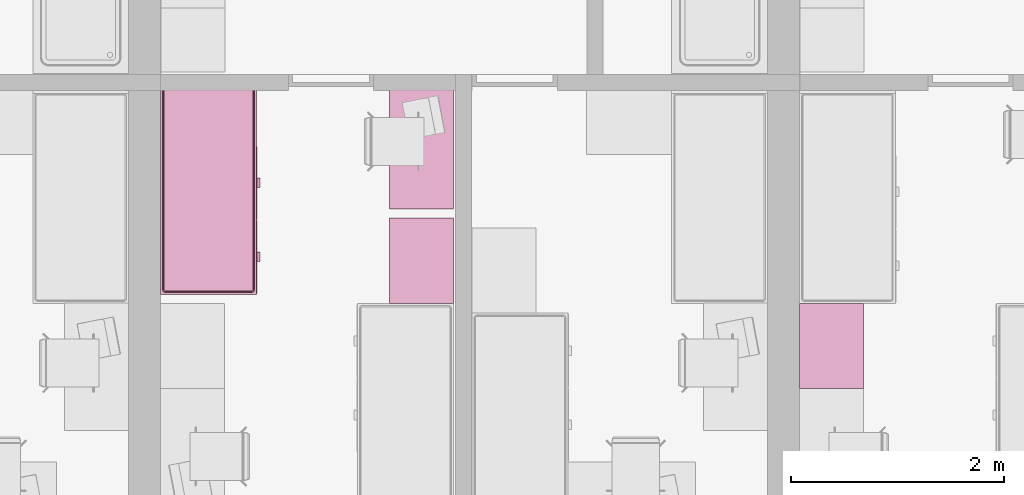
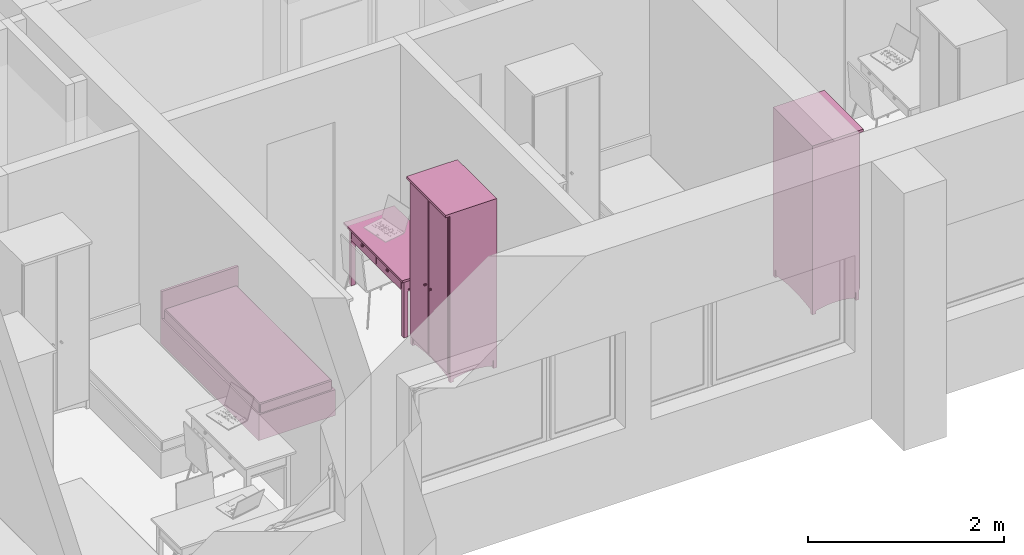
# One storey, part 86 of 165: 4 furnishings.
"""IFC2X3 building model written with IfcOpenShell, lengths in millimetres."""

from ifc_helpers import new_model, entity, si_unit, converted_unit, money_unit, direction, frame, origin_with_axes, place, context, subcontext, project, spatial, faceted_brep, source, transform, mapped, material, material_list, type_object, element, save


model = new_model("IFC2X3")

# Units and contexts
model_context = context("Model", 3, precision=1e-05, world=origin_with_axes(), true_north=direction((0.0, 1.0)))
body_context = subcontext(model_context, "Body", "Model", "MODEL_VIEW")
ifc_project = project(units=[si_unit("LENGTHUNIT", "METRE", prefix="MILLI"), si_unit("AREAUNIT", "SQUARE_METRE"), si_unit("VOLUMEUNIT", "CUBIC_METRE"), converted_unit("PLANEANGLEUNIT", "DEGREE", entity("IfcPlaneAngleMeasure", 0.0174532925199), si_unit("PLANEANGLEUNIT", "RADIAN"), dimensions=[0, 0, 0, 0, 0, 0, 0]), si_unit("SOLIDANGLEUNIT", "STERADIAN"), money_unit("USD"), converted_unit("TIMEUNIT", "Year", entity("IfcTimeMeasure", 31556926.0), si_unit("TIMEUNIT", "SECOND"), dimensions=[0, 0, 0, 0, 0, 0, 0]), si_unit("MASSUNIT", "GRAM"), si_unit("THERMODYNAMICTEMPERATUREUNIT", "DEGREE_CELSIUS"), si_unit("LUMINOUSINTENSITYUNIT", "LUMEN")], contexts=[model_context])

# Site, building, storey
site_placement = place(None, origin_with_axes())
site = spatial("IfcSite", under=ifc_project, at=site_placement, Name="Site", CompositionType="ELEMENT")
building_placement = place(site_placement, origin_with_axes())
building = spatial("IfcBuilding", under=site, at=building_placement, Name="Building", CompositionType="ELEMENT")
storey_placement = place(building_placement, frame((0.0, 0.0, 6300.0), z_axis=(0.0, 0.0, 1.0), x_axis=(1.0, 0.0, 0.0)))
storey = spatial("IfcBuildingStorey", under=building, at=storey_placement, Name="4KORRUS", CompositionType="ELEMENT", Elevation=6300.0)

# Furnishings
ifc_material = material(Name="Background")
ifc_material_list = material_list([ifc_material])
furnishing_element_type_1 = type_object("IfcFurnishingElementType", Name="Bed 19")
shared_shape_1 = source(origin_with_axes(), body_context, "Body", "Brep", [
    faceted_brep([(900.0, 1970.0, 0.0), (0.0, 1970.0, 0.0), (0.0, 2000.0, 0.0), (900.0, 2000.0, 0.0), (900.0, 1970.0, 660.0), (0.0, 1970.0, 660.0), (0.0, 2000.0, 660.0), (900.0, 2000.0, 660.0)], [[[0, 1, 2, 3]], [[1, 0, 4, 5]], [[2, 1, 5, 6]], [[3, 2, 6, 7]], [[0, 3, 7, 4]], [[5, 4, 7, 6]]]),
    faceted_brep([(900.0, 0.0, 0.0), (0.0, 0.0, 0.0), (0.0, 1970.0, 0.0), (900.0, 1970.0, 0.0), (900.0, 0.0, 320.0), (0.0, 0.0, 320.0), (0.0, 1970.0, 320.0), (900.0, 1970.0, 320.0)], [[[0, 1, 2, 3]], [[1, 0, 4, 5]], [[2, 1, 5, 6]], [[3, 2, 6, 7]], [[0, 3, 7, 4]], [[5, 4, 7, 6]]]),
    faceted_brep([(905.0, 10.0, 30.0), (900.0, 10.0, 30.0), (900.0, 695.0, 30.0), (905.0, 695.0, 30.0), (905.0, 10.0, 290.0), (900.0, 10.0, 290.0), (900.0, 695.0, 290.0), (905.0, 695.0, 290.0)], [[[0, 1, 2, 3]], [[1, 0, 4, 5]], [[2, 1, 5, 6]], [[3, 2, 6, 7]], [[0, 3, 7, 4]], [[5, 4, 7, 6]]]),
    faceted_brep([(935.0, 307.5, 150.0), (905.0, 307.5, 150.0), (905.0, 397.5, 150.0), (935.0, 397.5, 150.0), (935.0, 307.5, 170.0), (905.0, 307.5, 170.0), (905.0, 397.5, 170.0), (935.0, 397.5, 170.0)], [[[0, 1, 2, 3]], [[1, 0, 4, 5]], [[2, 1, 5, 6]], [[3, 2, 6, 7]], [[0, 3, 7, 4]], [[5, 4, 7, 6]]]),
    faceted_brep([(905.0, 705.0, 30.0), (900.0, 705.0, 30.0), (900.0, 1390.0, 30.0), (905.0, 1390.0, 30.0), (905.0, 705.0, 290.0), (900.0, 705.0, 290.0), (900.0, 1390.0, 290.0), (905.0, 1390.0, 290.0)], [[[0, 1, 2, 3]], [[1, 0, 4, 5]], [[2, 1, 5, 6]], [[3, 2, 6, 7]], [[0, 3, 7, 4]], [[5, 4, 7, 6]]]),
    faceted_brep([(935.0, 1002.5, 150.0), (905.0, 1002.5, 150.0), (905.0, 1092.5, 150.0), (935.0, 1092.5, 150.0), (935.0, 1002.5, 170.0), (905.0, 1002.5, 170.0), (905.0, 1092.5, 170.0), (935.0, 1092.5, 170.0)], [[[0, 1, 2, 3]], [[1, 0, 4, 5]], [[2, 1, 5, 6]], [[3, 2, 6, 7]], [[0, 3, 7, 4]], [[5, 4, 7, 6]]]),
    faceted_brep([(20.0, 40.0, 350.0), (20.0, 1950.0, 350.0), (21.522, 1957.654, 350.0), (25.858, 1964.142, 350.0), (32.346, 1968.478, 350.0), (40.0, 1970.0, 350.0), (860.0, 1970.0, 350.0), (867.654, 1968.478, 350.0), (874.142, 1964.142, 350.0), (878.478, 1957.654, 350.0), (880.0, 1950.0, 350.0), (880.0, 40.0, 350.0), (878.478, 32.346, 350.0), (874.142, 25.858, 350.0), (867.654, 21.522, 350.0), (860.0, 20.0, 350.0), (40.0, 20.0, 350.0), (32.346, 21.522, 350.0), (25.858, 25.858, 350.0), (21.522, 32.346, 350.0), (20.0, 40.0, 420.0), (20.0, 1950.0, 420.0), (21.522, 1957.654, 420.0), (25.858, 1964.142, 420.0), (32.346, 1968.478, 420.0), (40.0, 1970.0, 420.0), (860.0, 1970.0, 420.0), (867.654, 1968.478, 420.0), (874.142, 1964.142, 420.0), (878.478, 1957.654, 420.0), (880.0, 1950.0, 420.0), (880.0, 40.0, 420.0), (878.478, 32.346, 420.0), (874.142, 25.858, 420.0), (867.654, 21.522, 420.0), (860.0, 20.0, 420.0), (40.0, 20.0, 420.0), (32.346, 21.522, 420.0), (25.858, 25.858, 420.0), (21.522, 32.346, 420.0), (21.522, 40.15, 427.654), (21.522, 1949.85, 427.654), (22.956, 1957.06, 427.654), (26.955, 1963.045, 427.654), (32.94, 1967.044, 427.654), (40.15, 1968.478, 427.654), (859.85, 1968.478, 427.654), (867.06, 1967.044, 427.654), (873.045, 1963.045, 427.654), (877.044, 1957.06, 427.654), (878.478, 1949.85, 427.654), (878.478, 40.15, 427.654), (877.044, 32.94, 427.654), (873.045, 26.955, 427.654), (867.06, 22.956, 427.654), (859.85, 21.522, 427.654), (40.15, 21.522, 427.654), (32.94, 22.956, 427.654), (26.955, 26.955, 427.654), (22.956, 32.94, 427.654), (32.346, 41.216, 438.478), (32.346, 1948.784, 438.478), (33.152, 1952.836, 438.478), (34.759, 1955.241, 438.478), (37.164, 1956.848, 438.478), (41.216, 1957.654, 438.478), (858.784, 1957.654, 438.478), (862.836, 1956.848, 438.478), (865.241, 1955.241, 438.478), (866.848, 1952.836, 438.478), (867.654, 1948.784, 438.478), (867.654, 41.216, 438.478), (866.848, 37.164, 438.478), (865.241, 34.759, 438.478), (862.836, 33.152, 438.478), (858.784, 32.346, 438.478), (41.216, 32.346, 438.478), (37.164, 33.152, 438.478), (34.759, 34.759, 438.478), (33.152, 37.164, 438.478), (40.0, 41.97, 440.0), (40.0, 1948.03, 440.0), (40.327, 1949.673, 440.0), (40.0, 1950.0, 439.924), (41.97, 1950.0, 440.0), (858.03, 1950.0, 440.0), (859.673, 1949.673, 440.0), (860.0, 1950.0, 439.924), (860.0, 1948.03, 440.0), (860.0, 41.97, 440.0), (859.673, 40.327, 440.0), (860.0, 40.0, 439.924), (858.03, 40.0, 440.0), (41.97, 40.0, 440.0), (40.327, 40.327, 440.0), (40.0, 40.0, 439.924)], [[[0, 1, 2, 3, 4, 5, 6, 7, 8, 9, 10, 11, 12, 13, 14, 15, 16, 17, 18, 19]], [[1, 0, 20, 21]], [[2, 1, 21, 22]], [[3, 2, 22, 23]], [[4, 3, 23, 24]], [[5, 4, 24, 25]], [[6, 5, 25, 26]], [[7, 6, 26, 27]], [[8, 7, 27, 28]], [[9, 8, 28, 29]], [[10, 9, 29, 30]], [[11, 10, 30, 31]], [[12, 11, 31, 32]], [[13, 12, 32, 33]], [[14, 13, 33, 34]], [[15, 14, 34, 35]], [[16, 15, 35, 36]], [[17, 16, 36, 37]], [[18, 17, 37, 38]], [[19, 18, 38, 39]], [[0, 19, 39, 20]], [[21, 20, 40, 41]], [[22, 21, 41, 42]], [[23, 22, 42, 43]], [[24, 23, 43, 44]], [[25, 24, 44, 45]], [[26, 25, 45, 46]], [[27, 26, 46, 47]], [[28, 27, 47, 48]], [[29, 28, 48, 49]], [[30, 29, 49, 50]], [[31, 30, 50, 51]], [[32, 31, 51, 52]], [[33, 32, 52, 53]], [[34, 33, 53, 54]], [[35, 34, 54, 55]], [[36, 35, 55, 56]], [[37, 36, 56, 57]], [[38, 37, 57, 58]], [[39, 38, 58, 59]], [[20, 39, 59, 40]], [[41, 40, 60, 61]], [[42, 41, 61, 62]], [[43, 42, 62, 63]], [[44, 43, 63, 64]], [[45, 44, 64, 65]], [[46, 45, 65, 66]], [[47, 46, 66, 67]], [[48, 47, 67, 68]], [[49, 48, 68, 69]], [[50, 49, 69, 70]], [[51, 50, 70, 71]], [[52, 51, 71, 72]], [[53, 52, 72, 73]], [[54, 53, 73, 74]], [[55, 54, 74, 75]], [[56, 55, 75, 76]], [[57, 56, 76, 77]], [[58, 57, 77, 78]], [[59, 58, 78, 79]], [[40, 59, 79, 60]], [[61, 60, 80, 81]], [[62, 61, 81, 82, 83]], [[63, 62, 83]], [[64, 63, 83]], [[65, 64, 83, 82, 84]], [[66, 65, 84, 85]], [[67, 66, 85, 86, 87]], [[68, 67, 87]], [[69, 68, 87]], [[70, 69, 87, 86, 88]], [[71, 70, 88, 89]], [[72, 71, 89, 90, 91]], [[73, 72, 91]], [[74, 73, 91]], [[75, 74, 91, 90, 92]], [[76, 75, 92, 93]], [[77, 76, 93, 94, 95]], [[78, 77, 95]], [[79, 78, 95]], [[60, 79, 95, 94, 80]], [[81, 80, 94, 93, 92, 90, 89, 88, 86, 85, 84, 82]]]),
    faceted_brep([(20.0, 40.0, 350.0), (21.522, 32.346, 350.0), (25.858, 25.858, 350.0), (32.346, 21.522, 350.0), (40.0, 20.0, 350.0), (860.0, 20.0, 350.0), (867.654, 21.522, 350.0), (874.142, 25.858, 350.0), (878.478, 32.346, 350.0), (880.0, 40.0, 350.0), (880.0, 1950.0, 350.0), (878.478, 1957.654, 350.0), (874.142, 1964.142, 350.0), (867.654, 1968.478, 350.0), (860.0, 1970.0, 350.0), (40.0, 1970.0, 350.0), (32.346, 1968.478, 350.0), (25.858, 1964.142, 350.0), (21.522, 1957.654, 350.0), (20.0, 1950.0, 350.0), (20.0, 40.0, 320.0), (21.522, 32.346, 320.0), (25.858, 25.858, 320.0), (32.346, 21.522, 320.0), (40.0, 20.0, 320.0), (860.0, 20.0, 320.0), (867.654, 21.522, 320.0), (874.142, 25.858, 320.0), (878.478, 32.346, 320.0), (880.0, 40.0, 320.0), (880.0, 1950.0, 320.0), (878.478, 1957.654, 320.0), (874.142, 1964.142, 320.0), (867.654, 1968.478, 320.0), (860.0, 1970.0, 320.0), (40.0, 1970.0, 320.0), (32.346, 1968.478, 320.0), (25.858, 1964.142, 320.0), (21.522, 1957.654, 320.0), (20.0, 1950.0, 320.0)], [[[0, 1, 2, 3, 4, 5, 6, 7, 8, 9, 10, 11, 12, 13, 14, 15, 16, 17, 18, 19]], [[0, 20, 21, 1]], [[1, 21, 22, 2]], [[2, 22, 23, 3]], [[3, 23, 24, 4]], [[4, 24, 25, 5]], [[5, 25, 26, 6]], [[6, 26, 27, 7]], [[7, 27, 28, 8]], [[8, 28, 29, 9]], [[9, 29, 30, 10]], [[10, 30, 31, 11]], [[11, 31, 32, 12]], [[12, 32, 33, 13]], [[13, 33, 34, 14]], [[14, 34, 35, 15]], [[15, 35, 36, 16]], [[16, 36, 37, 17]], [[17, 37, 38, 18]], [[18, 38, 39, 19]], [[19, 39, 20, 0]], [[20, 39, 38, 37, 36, 35, 34, 33, 32, 31, 30, 29, 28, 27, 26, 25, 24, 23, 22, 21]]]),
])
furnishing_1_placement = place(storey_placement, frame((-29990.2967033, -17354.734447, 0.0), z_axis=(0.0, 0.0, 1.0), x_axis=(1.0, 0.0, 0.0)))
element("IfcFurnishingElement", 1, at=furnishing_1_placement, inside=storey, type_object=furnishing_element_type_1, material=ifc_material_list, Name="FU - 013", context=body_context, shape_type="MappedRepresentation", body=[
    mapped(shared_shape_1, transform((0.0, 0.0, 0.0))),
])
furnishing_element_type_2 = type_object("IfcFurnishingElementType", Name="Cupboard 19")
shared_shape_2 = source(origin_with_axes(), body_context, "Body", "Brep", [
    faceted_brep([(780.0, 600.0, 120.0), (780.0, 600.0, 2050.0), (780.0, 580.0, 2050.0), (780.0, 580.0, 120.0), (20.0, 600.0, 120.0), (20.0, 600.0, 2050.0), (20.0, 580.0, 2050.0), (20.0, 580.0, 120.0)], [[[0, 1, 2, 3]], [[4, 5, 1, 0]], [[1, 5, 6, 2]], [[3, 2, 6, 7]], [[0, 3, 7, 4]], [[7, 6, 5, 4]]]),
    faceted_brep([(0.0, 50.0, 100.0), (0.0, 600.0, 100.0), (20.0, 600.0, 100.0), (20.0, 50.0, 100.0), (0.0, 50.0, 2070.0), (0.0, 600.0, 2070.0), (20.0, 600.0, 2070.0), (20.0, 50.0, 2070.0)], [[[0, 1, 2, 3]], [[0, 4, 5, 1]], [[1, 5, 6, 2]], [[2, 6, 7, 3]], [[3, 7, 4, 0]], [[7, 6, 5, 4]]]),
    faceted_brep([(780.0, 50.0, 100.0), (780.0, 600.0, 100.0), (800.0, 600.0, 100.0), (800.0, 50.0, 100.0), (780.0, 50.0, 2070.0), (780.0, 600.0, 2070.0), (800.0, 600.0, 2070.0), (800.0, 50.0, 2070.0)], [[[0, 1, 2, 3]], [[0, 4, 5, 1]], [[1, 5, 6, 2]], [[2, 6, 7, 3]], [[3, 7, 4, 0]], [[7, 6, 5, 4]]]),
    faceted_brep([(20.0, 50.0, 100.0), (20.0, 600.0, 100.0), (780.0, 600.0, 100.0), (780.0, 50.0, 100.0), (20.0, 50.0, 120.0), (20.0, 600.0, 120.0), (780.0, 600.0, 120.0), (780.0, 50.0, 120.0)], [[[0, 1, 2, 3]], [[0, 4, 5, 1]], [[1, 5, 6, 2]], [[2, 6, 7, 3]], [[3, 7, 4, 0]], [[7, 6, 5, 4]]]),
    faceted_brep([(20.0, 50.0, 2050.0), (20.0, 600.0, 2050.0), (780.0, 600.0, 2050.0), (780.0, 50.0, 2050.0), (20.0, 50.0, 2070.0), (20.0, 600.0, 2070.0), (780.0, 600.0, 2070.0), (780.0, 50.0, 2070.0)], [[[0, 1, 2, 3]], [[0, 4, 5, 1]], [[1, 5, 6, 2]], [[2, 6, 7, 3]], [[3, 7, 4, 0]], [[7, 6, 5, 4]]]),
    faceted_brep([(0.0, 600.0, 2070.0), (0.0, 0.0, 2070.0), (0.0, 0.0, 2100.0), (0.0, 600.0, 2100.0), (800.0, 600.0, 2070.0), (800.0, 0.0, 2070.0), (800.0, 0.0, 2100.0), (800.0, 600.0, 2100.0)], [[[0, 1, 2, 3]], [[0, 4, 5, 1]], [[1, 5, 6, 2]], [[3, 2, 6, 7]], [[4, 0, 3, 7]], [[5, 4, 7, 6]]]),
    faceted_brep([(760.0, 590.0, 25.0), (760.0, 570.0, 25.0), (640.962, 570.0, 45.8), (640.962, 590.0, 45.8), (760.0, 590.0, 100.0), (760.0, 570.0, 100.0), (40.0, 570.0, 100.0), (40.0, 570.0, 25.0), (159.038, 570.0, 45.8), (279.23, 570.0, 58.32), (400.0, 570.0, 62.5), (520.77, 570.0, 58.32), (520.77, 590.0, 58.32), (400.0, 590.0, 62.5), (279.23, 590.0, 58.32), (159.038, 590.0, 45.8), (40.0, 590.0, 25.0), (40.0, 590.0, 100.0)], [[[0, 1, 2, 3]], [[4, 5, 1, 0]], [[1, 5, 6, 7, 8, 9, 10, 11, 2]], [[3, 2, 11, 12]], [[0, 3, 12, 13, 14, 15, 16, 17, 4]], [[17, 6, 5, 4]], [[16, 7, 6, 17]], [[15, 8, 7, 16]], [[14, 9, 8, 15]], [[13, 10, 9, 14]], [[12, 11, 10, 13]]]),
    faceted_brep([(760.0, 80.0, 25.0), (760.0, 60.0, 25.0), (640.962, 60.0, 45.8), (640.962, 80.0, 45.8), (760.0, 80.0, 100.0), (760.0, 60.0, 100.0), (40.0, 60.0, 100.0), (40.0, 60.0, 25.0), (159.038, 60.0, 45.8), (279.23, 60.0, 58.32), (400.0, 60.0, 62.5), (520.77, 60.0, 58.32), (520.77, 80.0, 58.32), (400.0, 80.0, 62.5), (279.23, 80.0, 58.32), (159.038, 80.0, 45.8), (40.0, 80.0, 25.0), (40.0, 80.0, 100.0)], [[[0, 1, 2, 3]], [[4, 5, 1, 0]], [[1, 5, 6, 7, 8, 9, 10, 11, 2]], [[3, 2, 11, 12]], [[0, 3, 12, 13, 14, 15, 16, 17, 4]], [[17, 6, 5, 4]], [[16, 7, 6, 17]], [[15, 8, 7, 16]], [[14, 9, 8, 15]], [[13, 10, 9, 14]], [[12, 11, 10, 13]]]),
    faceted_brep([(790.0, 90.0, 25.0), (770.0, 90.0, 25.0), (770.0, 141.266, 38.072), (790.0, 141.266, 38.072), (790.0, 90.0, 100.0), (770.0, 90.0, 100.0), (770.0, 560.0, 100.0), (770.0, 560.0, 25.0), (770.0, 508.734, 38.072), (770.0, 456.752, 47.92), (770.0, 404.257, 54.508), (770.0, 351.453, 57.808), (770.0, 298.547, 57.808), (770.0, 245.743, 54.508), (770.0, 193.248, 47.92), (790.0, 193.248, 47.92), (790.0, 245.743, 54.508), (790.0, 298.547, 57.808), (790.0, 351.453, 57.808), (790.0, 404.257, 54.508), (790.0, 456.752, 47.92), (790.0, 508.734, 38.072), (790.0, 560.0, 25.0), (790.0, 560.0, 100.0)], [[[0, 1, 2, 3]], [[4, 5, 1, 0]], [[1, 5, 6, 7, 8, 9, 10, 11, 12, 13, 14, 2]], [[3, 2, 14, 15]], [[0, 3, 15, 16, 17, 18, 19, 20, 21, 22, 23, 4]], [[23, 6, 5, 4]], [[22, 7, 6, 23]], [[21, 8, 7, 22]], [[20, 9, 8, 21]], [[19, 10, 9, 20]], [[18, 11, 10, 19]], [[17, 12, 11, 18]], [[16, 13, 12, 17]], [[15, 14, 13, 16]]]),
    faceted_brep([(30.0, 90.0, 25.0), (10.0, 90.0, 25.0), (10.0, 141.266, 38.072), (30.0, 141.266, 38.072), (30.0, 90.0, 100.0), (10.0, 90.0, 100.0), (10.0, 560.0, 100.0), (10.0, 560.0, 25.0), (10.0, 508.734, 38.072), (10.0, 456.752, 47.92), (10.0, 404.257, 54.508), (10.0, 351.453, 57.808), (10.0, 298.547, 57.808), (10.0, 245.743, 54.508), (10.0, 193.248, 47.92), (30.0, 193.248, 47.92), (30.0, 245.743, 54.508), (30.0, 298.547, 57.808), (30.0, 351.453, 57.808), (30.0, 404.257, 54.508), (30.0, 456.752, 47.92), (30.0, 508.734, 38.072), (30.0, 560.0, 25.0), (30.0, 560.0, 100.0)], [[[0, 1, 2, 3]], [[4, 5, 1, 0]], [[1, 5, 6, 7, 8, 9, 10, 11, 12, 13, 14, 2]], [[3, 2, 14, 15]], [[0, 3, 15, 16, 17, 18, 19, 20, 21, 22, 23, 4]], [[23, 6, 5, 4]], [[22, 7, 6, 23]], [[21, 8, 7, 22]], [[20, 9, 8, 21]], [[19, 10, 9, 20]], [[18, 11, 10, 19]], [[17, 12, 11, 18]], [[16, 13, 12, 17]], [[15, 14, 13, 16]]]),
    faceted_brep([(760.0, 560.0, 0.0), (760.0, 560.0, 100.0), (760.0, 600.0, 100.0), (760.0, 600.0, 0.0), (800.0, 560.0, 0.0), (800.0, 560.0, 100.0), (800.0, 600.0, 100.0), (800.0, 600.0, 0.0)], [[[0, 1, 2, 3]], [[4, 5, 1, 0]], [[1, 5, 6, 2]], [[3, 2, 6, 7]], [[0, 3, 7, 4]], [[7, 6, 5, 4]]]),
    faceted_brep([(0.0, 560.0, 0.0), (0.0, 560.0, 100.0), (0.0, 600.0, 100.0), (0.0, 600.0, 0.0), (40.0, 560.0, 0.0), (40.0, 560.0, 100.0), (40.0, 600.0, 100.0), (40.0, 600.0, 0.0)], [[[0, 1, 2, 3]], [[4, 5, 1, 0]], [[1, 5, 6, 2]], [[3, 2, 6, 7]], [[0, 3, 7, 4]], [[7, 6, 5, 4]]]),
    faceted_brep([(760.0, 50.0, 0.0), (760.0, 50.0, 100.0), (760.0, 90.0, 100.0), (760.0, 90.0, 0.0), (800.0, 50.0, 0.0), (800.0, 50.0, 100.0), (800.0, 90.0, 100.0), (800.0, 90.0, 0.0)], [[[0, 1, 2, 3]], [[4, 5, 1, 0]], [[1, 5, 6, 2]], [[3, 2, 6, 7]], [[0, 3, 7, 4]], [[7, 6, 5, 4]]]),
    faceted_brep([(0.0, 50.0, 0.0), (0.0, 50.0, 100.0), (0.0, 90.0, 100.0), (0.0, 90.0, 0.0), (40.0, 50.0, 0.0), (40.0, 50.0, 100.0), (40.0, 90.0, 100.0), (40.0, 90.0, 0.0)], [[[0, 1, 2, 3]], [[4, 5, 1, 0]], [[1, 5, 6, 2]], [[3, 2, 6, 7]], [[0, 3, 7, 4]], [[7, 6, 5, 4]]]),
    faceted_brep([(780.0, 580.0, 587.5), (780.0, 580.0, 607.5), (780.0, 50.0, 607.5), (780.0, 50.0, 587.5), (20.0, 580.0, 587.5), (20.0, 580.0, 607.5), (20.0, 50.0, 607.5), (20.0, 50.0, 587.5)], [[[0, 1, 2, 3]], [[4, 5, 1, 0]], [[1, 5, 6, 2]], [[3, 2, 6, 7]], [[0, 3, 7, 4]], [[7, 6, 5, 4]]]),
    faceted_brep([(780.0, 580.0, 1075.0), (780.0, 580.0, 1095.0), (780.0, 50.0, 1095.0), (780.0, 50.0, 1075.0), (20.0, 580.0, 1075.0), (20.0, 580.0, 1095.0), (20.0, 50.0, 1095.0), (20.0, 50.0, 1075.0)], [[[0, 1, 2, 3]], [[4, 5, 1, 0]], [[1, 5, 6, 2]], [[3, 2, 6, 7]], [[0, 3, 7, 4]], [[7, 6, 5, 4]]]),
    faceted_brep([(780.0, 580.0, 1562.5), (780.0, 580.0, 1582.5), (780.0, 50.0, 1582.5), (780.0, 50.0, 1562.5), (20.0, 580.0, 1562.5), (20.0, 580.0, 1582.5), (20.0, 50.0, 1582.5), (20.0, 50.0, 1562.5)], [[[0, 1, 2, 3]], [[4, 5, 1, 0]], [[1, 5, 6, 2]], [[3, 2, 6, 7]], [[0, 3, 7, 4]], [[7, 6, 5, 4]]]),
    faceted_brep([(789.5, 50.0, 110.5), (400.5, 50.0, 110.5), (400.5, 50.0, 2059.5), (789.5, 50.0, 2059.5), (789.5, 40.0, 110.5), (400.5, 40.0, 110.5), (400.5, 40.0, 2059.5), (789.5, 40.0, 2059.5), (779.5, 30.0, 120.5), (410.5, 30.0, 120.5), (410.5, 30.0, 2049.5), (779.5, 30.0, 2049.5)], [[[0, 1, 2, 3]], [[0, 4, 5, 1]], [[1, 5, 6, 2]], [[2, 6, 7, 3]], [[3, 7, 4, 0]], [[4, 8, 9, 5]], [[5, 9, 10, 6]], [[6, 10, 11, 7]], [[7, 11, 8, 4]], [[10, 9, 8, 11]]]),
    faceted_brep([(399.5, 50.0, 110.5), (10.5, 50.0, 110.5), (10.5, 50.0, 2059.5), (399.5, 50.0, 2059.5), (399.5, 40.0, 110.5), (10.5, 40.0, 110.5), (10.5, 40.0, 2059.5), (399.5, 40.0, 2059.5), (389.5, 30.0, 120.5), (20.5, 30.0, 120.5), (20.5, 30.0, 2049.5), (389.5, 30.0, 2049.5)], [[[0, 1, 2, 3]], [[0, 4, 5, 1]], [[1, 5, 6, 2]], [[2, 6, 7, 3]], [[3, 7, 4, 0]], [[4, 8, 9, 5]], [[5, 9, 10, 6]], [[6, 10, 11, 7]], [[7, 11, 8, 4]], [[10, 9, 8, 11]]]),
    faceted_brep([(339.608, 30.0, 954.0), (338.0, 30.0, 960.0), (339.608, 30.0, 966.0), (344.0, 30.0, 970.392), (350.0, 30.0, 972.0), (356.0, 30.0, 970.392), (360.392, 30.0, 966.0), (362.0, 30.0, 960.0), (360.392, 30.0, 954.0), (356.0, 30.0, 949.608), (350.0, 30.0, 948.0), (344.0, 30.0, 949.608), (339.608, 5.0, 954.0), (338.0, 5.0, 960.0), (339.608, 5.0, 966.0), (344.0, 5.0, 970.392), (350.0, 5.0, 972.0), (356.0, 5.0, 970.392), (360.392, 5.0, 966.0), (362.0, 5.0, 960.0), (360.392, 5.0, 954.0), (356.0, 5.0, 949.608), (350.0, 5.0, 948.0), (344.0, 5.0, 949.608)], [[[0, 1, 2, 3, 4, 5, 6, 7, 8, 9, 10, 11]], [[0, 12, 13, 1]], [[1, 13, 14, 2]], [[2, 14, 15, 3]], [[3, 15, 16, 4]], [[4, 16, 17, 5]], [[5, 17, 18, 6]], [[6, 18, 19, 7]], [[7, 19, 20, 8]], [[8, 20, 21, 9]], [[9, 21, 22, 10]], [[10, 22, 23, 11]], [[11, 23, 12, 0]], [[12, 23, 22, 21, 20, 19, 18, 17, 16, 15, 14, 13]]]),
    faceted_brep([(460.392, 30.0, 954.0), (456.0, 30.0, 949.608), (450.0, 30.0, 948.0), (444.0, 30.0, 949.608), (439.608, 30.0, 954.0), (438.0, 30.0, 960.0), (439.608, 30.0, 966.0), (444.0, 30.0, 970.392), (450.0, 30.0, 972.0), (456.0, 30.0, 970.392), (460.392, 30.0, 966.0), (462.0, 30.0, 960.0), (460.392, 5.0, 954.0), (456.0, 5.0, 949.608), (450.0, 5.0, 948.0), (444.0, 5.0, 949.608), (439.608, 5.0, 954.0), (438.0, 5.0, 960.0), (439.608, 5.0, 966.0), (444.0, 5.0, 970.392), (450.0, 5.0, 972.0), (456.0, 5.0, 970.392), (460.392, 5.0, 966.0), (462.0, 5.0, 960.0)], [[[0, 1, 2, 3, 4, 5, 6, 7, 8, 9, 10, 11]], [[1, 0, 12, 13]], [[2, 1, 13, 14]], [[3, 2, 14, 15]], [[4, 3, 15, 16]], [[5, 4, 16, 17]], [[6, 5, 17, 18]], [[7, 6, 18, 19]], [[8, 7, 19, 20]], [[9, 8, 20, 21]], [[10, 9, 21, 22]], [[11, 10, 22, 23]], [[0, 11, 23, 12]], [[12, 23, 22, 21, 20, 19, 18, 17, 16, 15, 14, 13]]]),
])
for number, where, z_axis, x_axis, name in (
    (2, (-27840.2967033, -16639.2398994, 0.0), (0.0, 0.0, 1.0), (0.0, -1.0, 0.0), "FU - 014"),
    (3, (-23390.2967033, -18239.2398994, 0.0), (0.0, 0.0, 1.0), (0.0, 1.0, 0.0), "FU - 014"),
):
    element("IfcFurnishingElement", number, at=place(storey_placement, frame(where, z_axis=z_axis, x_axis=x_axis)), inside=storey, type_object=furnishing_element_type_2, material=ifc_material_list, Name=name, context=body_context, shape_type="MappedRepresentation", body=[
        mapped(shared_shape_2, transform((0.0, 0.0, 0.0))),
    ])
furnishing_element_type_3 = type_object("IfcFurnishingElementType", Name="Rectangular Table 01 19")
shared_shape_3 = source(origin_with_axes(), body_context, "Body", "Brep", [
    faceted_brep([(90.0, 40.0, 0.0), (40.0, 40.0, 0.0), (40.0, 90.0, 0.0), (90.0, 90.0, 0.0), (90.0, 40.0, 725.0), (40.0, 40.0, 725.0), (40.0, 90.0, 725.0), (90.0, 90.0, 725.0)], [[[0, 1, 2, 3]], [[1, 0, 4, 5]], [[2, 1, 5, 6]], [[3, 2, 6, 7]], [[0, 3, 7, 4]], [[5, 4, 7, 6]]]),
    faceted_brep([(1160.0, 40.0, 0.0), (1110.0, 40.0, 0.0), (1110.0, 90.0, 0.0), (1160.0, 90.0, 0.0), (1160.0, 40.0, 725.0), (1110.0, 40.0, 725.0), (1110.0, 90.0, 725.0), (1160.0, 90.0, 725.0)], [[[0, 1, 2, 3]], [[1, 0, 4, 5]], [[2, 1, 5, 6]], [[3, 2, 6, 7]], [[0, 3, 7, 4]], [[5, 4, 7, 6]]]),
    faceted_brep([(90.0, 510.0, 0.0), (40.0, 510.0, 0.0), (40.0, 560.0, 0.0), (90.0, 560.0, 0.0), (90.0, 510.0, 725.0), (40.0, 510.0, 725.0), (40.0, 560.0, 725.0), (90.0, 560.0, 725.0)], [[[0, 1, 2, 3]], [[1, 0, 4, 5]], [[2, 1, 5, 6]], [[3, 2, 6, 7]], [[0, 3, 7, 4]], [[5, 4, 7, 6]]]),
    faceted_brep([(1160.0, 510.0, 0.0), (1110.0, 510.0, 0.0), (1110.0, 560.0, 0.0), (1160.0, 560.0, 0.0), (1160.0, 510.0, 725.0), (1110.0, 510.0, 725.0), (1110.0, 560.0, 725.0), (1160.0, 560.0, 725.0)], [[[0, 1, 2, 3]], [[1, 0, 4, 5]], [[2, 1, 5, 6]], [[3, 2, 6, 7]], [[0, 3, 7, 4]], [[5, 4, 7, 6]]]),
    faceted_brep([(1160.0, 40.0, 565.0), (40.0, 40.0, 565.0), (40.0, 560.0, 565.0), (1160.0, 560.0, 565.0), (1160.0, 40.0, 585.0), (40.0, 40.0, 585.0), (40.0, 560.0, 585.0), (1160.0, 560.0, 585.0)], [[[0, 1, 2, 3]], [[1, 0, 4, 5]], [[2, 1, 5, 6]], [[3, 2, 6, 7]], [[0, 3, 7, 4]], [[5, 4, 7, 6]]]),
    faceted_brep([(1110.0, 52.5, 585.0), (90.0, 52.5, 585.0), (90.0, 77.5, 585.0), (1110.0, 77.5, 585.0), (1110.0, 52.5, 745.0), (90.0, 52.5, 745.0), (90.0, 77.5, 745.0), (1110.0, 77.5, 745.0)], [[[0, 1, 2, 3]], [[1, 0, 4, 5]], [[2, 1, 5, 6]], [[3, 2, 6, 7]], [[0, 3, 7, 4]], [[5, 4, 7, 6]]]),
    faceted_brep([(77.5, 90.0, 585.0), (52.5, 90.0, 585.0), (52.5, 510.0, 585.0), (77.5, 510.0, 585.0), (77.5, 90.0, 745.0), (52.5, 90.0, 745.0), (52.5, 510.0, 745.0), (77.5, 510.0, 745.0)], [[[0, 1, 2, 3]], [[1, 0, 4, 5]], [[2, 1, 5, 6]], [[3, 2, 6, 7]], [[0, 3, 7, 4]], [[5, 4, 7, 6]]]),
    faceted_brep([(90.0, 547.5, 585.0), (1110.0, 547.5, 585.0), (1110.0, 522.5, 585.0), (90.0, 522.5, 585.0), (90.0, 547.5, 745.0), (1110.0, 547.5, 745.0), (1110.0, 522.5, 745.0), (90.0, 522.5, 745.0)], [[[0, 1, 2, 3]], [[1, 0, 4, 5]], [[2, 1, 5, 6]], [[3, 2, 6, 7]], [[0, 3, 7, 4]], [[5, 4, 7, 6]]]),
    faceted_brep([(1122.5, 510.0, 585.0), (1147.5, 510.0, 585.0), (1147.5, 90.0, 585.0), (1122.5, 90.0, 585.0), (1122.5, 510.0, 745.0), (1147.5, 510.0, 745.0), (1147.5, 90.0, 745.0), (1122.5, 90.0, 745.0)], [[[0, 1, 2, 3]], [[1, 0, 4, 5]], [[2, 1, 5, 6]], [[3, 2, 6, 7]], [[0, 3, 7, 4]], [[5, 4, 7, 6]]]),
    faceted_brep([(597.5, 40.0, 585.0), (95.0, 40.0, 585.0), (95.0, 60.0, 585.0), (597.5, 60.0, 585.0), (597.5, 40.0, 745.0), (95.0, 40.0, 745.0), (95.0, 60.0, 745.0), (597.5, 60.0, 745.0)], [[[0, 1, 2, 3]], [[1, 0, 4, 5]], [[2, 1, 5, 6]], [[3, 2, 6, 7]], [[0, 3, 7, 4]], [[5, 4, 7, 6]]]),
    faceted_brep([(1105.0, 40.0, 585.0), (602.5, 40.0, 585.0), (602.5, 60.0, 585.0), (1105.0, 60.0, 585.0), (1105.0, 40.0, 745.0), (602.5, 40.0, 745.0), (602.5, 60.0, 745.0), (1105.0, 60.0, 745.0)], [[[0, 1, 2, 3]], [[1, 0, 4, 5]], [[2, 1, 5, 6]], [[3, 2, 6, 7]], [[0, 3, 7, 4]], [[5, 4, 7, 6]]]),
    faceted_brep([(354.91, 40.0, 660.0), (351.25, 40.0, 656.34), (346.25, 40.0, 655.0), (341.25, 40.0, 656.34), (337.59, 40.0, 660.0), (336.25, 40.0, 665.0), (337.59, 40.0, 670.0), (341.25, 40.0, 673.66), (346.25, 40.0, 675.0), (351.25, 40.0, 673.66), (354.91, 40.0, 670.0), (356.25, 40.0, 665.0), (354.91, 25.0, 660.0), (351.25, 25.0, 656.34), (346.25, 25.0, 655.0), (341.25, 25.0, 656.34), (337.59, 25.0, 660.0), (336.25, 25.0, 665.0), (337.59, 25.0, 670.0), (341.25, 25.0, 673.66), (346.25, 25.0, 675.0), (351.25, 25.0, 673.66), (354.91, 25.0, 670.0), (356.25, 25.0, 665.0)], [[[0, 1, 2, 3, 4, 5, 6, 7, 8, 9, 10, 11]], [[1, 0, 12, 13]], [[2, 1, 13, 14]], [[3, 2, 14, 15]], [[4, 3, 15, 16]], [[5, 4, 16, 17]], [[6, 5, 17, 18]], [[7, 6, 18, 19]], [[8, 7, 19, 20]], [[9, 8, 20, 21]], [[10, 9, 21, 22]], [[11, 10, 22, 23]], [[0, 11, 23, 12]], [[12, 23, 22, 21, 20, 19, 18, 17, 16, 15, 14, 13]]]),
    faceted_brep([(356.25, 12.01, 665.0), (346.25, 10.0, 665.0), (354.91, 12.01, 660.0), (354.91, 12.01, 670.0), (351.25, 12.01, 656.34), (363.571, 17.5, 665.0), (361.25, 17.5, 656.34), (351.25, 12.01, 673.66), (361.25, 17.5, 673.66), (346.25, 12.01, 655.0), (354.91, 17.5, 650.0), (366.25, 25.0, 665.0), (363.571, 25.0, 655.0), (346.25, 12.01, 675.0), (354.91, 17.5, 680.0), (363.571, 25.0, 675.0), (341.25, 12.01, 656.34), (346.25, 17.5, 647.679), (356.25, 25.0, 647.679), (346.25, 25.0, 645.0), (336.25, 25.0, 647.679), (328.929, 25.0, 655.0), (326.25, 25.0, 665.0), (328.929, 25.0, 675.0), (336.25, 25.0, 682.321), (346.25, 25.0, 685.0), (356.25, 25.0, 682.321), (341.25, 12.01, 673.66), (346.25, 17.5, 682.321), (337.59, 12.01, 660.0), (337.59, 17.5, 650.0), (331.25, 17.5, 656.34), (328.929, 17.5, 665.0), (331.25, 17.5, 673.66), (337.59, 17.5, 680.0), (337.59, 12.01, 670.0), (336.25, 12.01, 665.0)], [[[0, 1, 2]], [[3, 1, 0]], [[2, 1, 4]], [[5, 0, 2, 6]], [[7, 1, 3]], [[8, 3, 0, 5]], [[4, 1, 9]], [[6, 2, 4, 10]], [[11, 5, 6, 12]], [[13, 1, 7]], [[14, 7, 3, 8]], [[15, 8, 5, 11]], [[9, 1, 16]], [[10, 4, 9, 17]], [[12, 6, 10, 18]], [[12, 18, 19, 20, 21, 22, 23, 24, 25, 26, 15, 11]], [[27, 1, 13]], [[28, 13, 7, 14]], [[26, 14, 8, 15]], [[16, 1, 29]], [[17, 9, 16, 30]], [[18, 10, 17, 19]], [[19, 17, 30, 20]], [[20, 30, 31, 21]], [[21, 31, 32, 22]], [[22, 32, 33, 23]], [[23, 33, 34, 24]], [[24, 34, 28, 25]], [[25, 28, 14, 26]], [[35, 1, 27]], [[34, 27, 13, 28]], [[29, 1, 36]], [[30, 16, 29, 31]], [[31, 29, 36, 32]], [[32, 36, 35, 33]], [[33, 35, 27, 34]], [[36, 1, 35]]]),
    faceted_brep([(862.41, 40.0, 660.0), (858.75, 40.0, 656.34), (853.75, 40.0, 655.0), (848.75, 40.0, 656.34), (845.09, 40.0, 660.0), (843.75, 40.0, 665.0), (845.09, 40.0, 670.0), (848.75, 40.0, 673.66), (853.75, 40.0, 675.0), (858.75, 40.0, 673.66), (862.41, 40.0, 670.0), (863.75, 40.0, 665.0), (862.41, 25.0, 660.0), (858.75, 25.0, 656.34), (853.75, 25.0, 655.0), (848.75, 25.0, 656.34), (845.09, 25.0, 660.0), (843.75, 25.0, 665.0), (845.09, 25.0, 670.0), (848.75, 25.0, 673.66), (853.75, 25.0, 675.0), (858.75, 25.0, 673.66), (862.41, 25.0, 670.0), (863.75, 25.0, 665.0)], [[[0, 1, 2, 3, 4, 5, 6, 7, 8, 9, 10, 11]], [[1, 0, 12, 13]], [[2, 1, 13, 14]], [[3, 2, 14, 15]], [[4, 3, 15, 16]], [[5, 4, 16, 17]], [[6, 5, 17, 18]], [[7, 6, 18, 19]], [[8, 7, 19, 20]], [[9, 8, 20, 21]], [[10, 9, 21, 22]], [[11, 10, 22, 23]], [[0, 11, 23, 12]], [[12, 23, 22, 21, 20, 19, 18, 17, 16, 15, 14, 13]]]),
    faceted_brep([(863.75, 12.01, 665.0), (853.75, 10.0, 665.0), (862.41, 12.01, 660.0), (862.41, 12.01, 670.0), (858.75, 12.01, 656.34), (871.071, 17.5, 665.0), (868.75, 17.5, 656.34), (858.75, 12.01, 673.66), (868.75, 17.5, 673.66), (853.75, 12.01, 655.0), (862.41, 17.5, 650.0), (873.75, 25.0, 665.0), (871.071, 25.0, 655.0), (853.75, 12.01, 675.0), (862.41, 17.5, 680.0), (871.071, 25.0, 675.0), (848.75, 12.01, 656.34), (853.75, 17.5, 647.679), (863.75, 25.0, 647.679), (853.75, 25.0, 645.0), (843.75, 25.0, 647.679), (836.429, 25.0, 655.0), (833.75, 25.0, 665.0), (836.429, 25.0, 675.0), (843.75, 25.0, 682.321), (853.75, 25.0, 685.0), (863.75, 25.0, 682.321), (848.75, 12.01, 673.66), (853.75, 17.5, 682.321), (845.09, 12.01, 660.0), (845.09, 17.5, 650.0), (838.75, 17.5, 656.34), (836.429, 17.5, 665.0), (838.75, 17.5, 673.66), (845.09, 17.5, 680.0), (845.09, 12.01, 670.0), (843.75, 12.01, 665.0)], [[[0, 1, 2]], [[3, 1, 0]], [[2, 1, 4]], [[5, 0, 2, 6]], [[7, 1, 3]], [[8, 3, 0, 5]], [[4, 1, 9]], [[6, 2, 4, 10]], [[11, 5, 6, 12]], [[13, 1, 7]], [[14, 7, 3, 8]], [[15, 8, 5, 11]], [[9, 1, 16]], [[10, 4, 9, 17]], [[12, 6, 10, 18]], [[12, 18, 19, 20, 21, 22, 23, 24, 25, 26, 15, 11]], [[27, 1, 13]], [[28, 13, 7, 14]], [[26, 14, 8, 15]], [[16, 1, 29]], [[17, 9, 16, 30]], [[18, 10, 17, 19]], [[19, 17, 30, 20]], [[20, 30, 31, 21]], [[21, 31, 32, 22]], [[22, 32, 33, 23]], [[23, 33, 34, 24]], [[24, 34, 28, 25]], [[25, 28, 14, 26]], [[35, 1, 27]], [[34, 27, 13, 28]], [[29, 1, 36]], [[30, 16, 29, 31]], [[31, 29, 36, 32]], [[32, 36, 35, 33]], [[33, 35, 27, 34]], [[36, 1, 35]]]),
    faceted_brep([(1200.0, 0.0, 725.0), (0.0, 0.0, 725.0), (0.0, 600.0, 725.0), (1200.0, 600.0, 725.0), (1200.0, 0.0, 750.0), (0.0, 0.0, 750.0), (0.0, 600.0, 750.0), (1200.0, 600.0, 750.0)], [[[0, 1, 2, 3]], [[1, 0, 4, 5]], [[2, 1, 5, 6]], [[3, 2, 6, 7]], [[0, 3, 7, 4]], [[5, 4, 7, 6]]]),
])
furnishing_2_placement = place(storey_placement, frame((-27840.2967033, -15354.734447, 0.0), z_axis=(0.0, 0.0, 1.0), x_axis=(0.0, -1.0, 0.0)))
element("IfcFurnishingElement", 4, at=furnishing_2_placement, inside=storey, type_object=furnishing_element_type_3, material=ifc_material_list, Name="FU - 011", context=body_context, shape_type="MappedRepresentation", body=[
    mapped(shared_shape_3, transform((0.0, 0.0, 0.0))),
])

save(model, "model.ifc")
